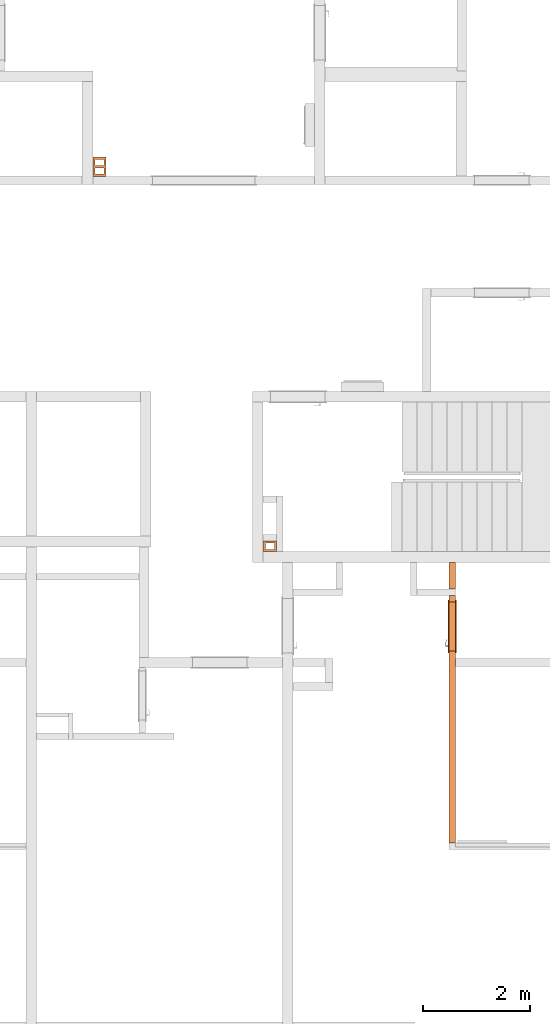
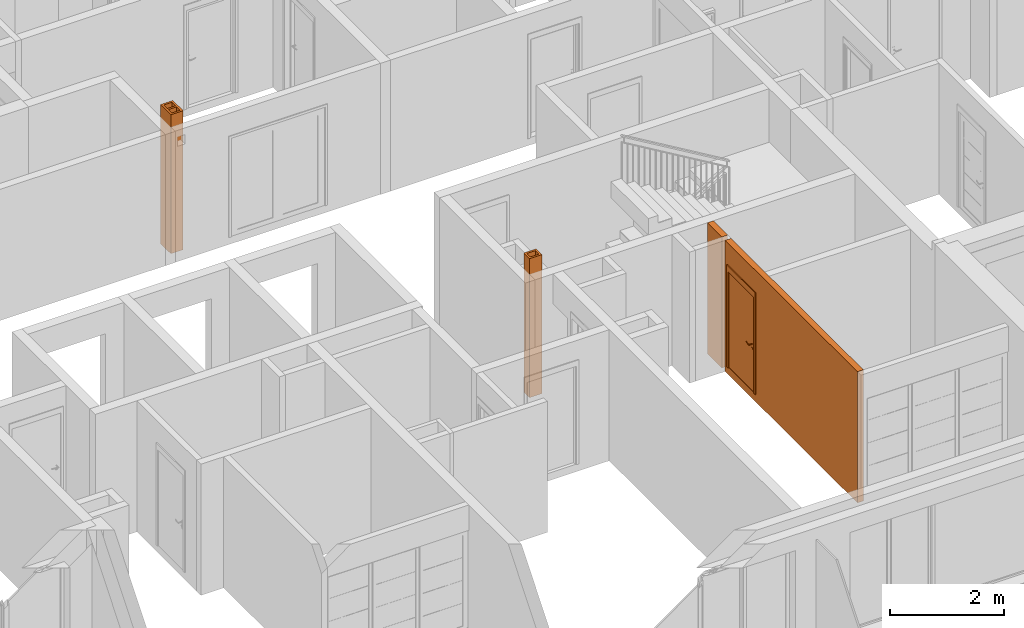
# One storey, part 19 of 64: 4 proxies, 1 opening.
"""IFC2X3 building model written with IfcOpenShell, lengths in millimetres."""

from ifc_helpers import new_model, entity, si_unit, converted_unit, derived_unit, money_unit, direction, frame, origin_with_axes, origin_2d_with_axis, place, context, subcontext, project, spatial, rectangle, extrude, open_shell, faceted_brep, surface_model, source, transform, mapped, material, type_object, element, fill, save


model = new_model("IFC2X3")

# Units and contexts
model_context = context("Model", 3, precision=0.01, world=origin_with_axes(), true_north=direction((0.34421633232, 0.938890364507)))
body_context = subcontext(model_context, "Body", "Model", "MODEL_VIEW")
ifc_project = project(units=[si_unit("LENGTHUNIT", "METRE", prefix="MILLI"), si_unit("AREAUNIT", "SQUARE_METRE"), si_unit("VOLUMEUNIT", "CUBIC_METRE"), converted_unit("PLANEANGLEUNIT", "DEGREE", entity("IfcPlaneAngleMeasure", 0.0174532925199), si_unit("PLANEANGLEUNIT", "RADIAN"), dimensions=[0, 0, 0, 0, 0, 0, 0]), si_unit("SOLIDANGLEUNIT", "STERADIAN"), money_unit("USD"), converted_unit("TIMEUNIT", "Year", entity("IfcTimeMeasure", 31556926.0), si_unit("TIMEUNIT", "SECOND"), dimensions=[0, 0, 1, 0, 0, 0, 0]), si_unit("MASSUNIT", "GRAM", prefix="KILO"), si_unit("THERMODYNAMICTEMPERATUREUNIT", "DEGREE_CELSIUS"), si_unit("LUMINOUSINTENSITYUNIT", "LUMEN"), si_unit("ENERGYUNIT", "JOULE", prefix="MEGA"), derived_unit("THERMALCONDUCTANCEUNIT", [(si_unit("POWERUNIT", "WATT"), 1), (si_unit("LENGTHUNIT", "METRE"), -1), (si_unit("THERMODYNAMICTEMPERATUREUNIT", "KELVIN"), -1)]), derived_unit("SPECIFICHEATCAPACITYUNIT", [(si_unit("ENERGYUNIT", "JOULE"), 1), (si_unit("MASSUNIT", "GRAM", prefix="KILO"), -1), (si_unit("THERMODYNAMICTEMPERATUREUNIT", "KELVIN"), -1)]), derived_unit("MASSDENSITYUNIT", [(si_unit("MASSUNIT", "GRAM", prefix="KILO"), 1), (si_unit("VOLUMEUNIT", "CUBIC_METRE"), -1)])], contexts=[model_context])

# Site, building, storey
site_placement = place(None, origin_with_axes())
site = spatial("IfcSite", under=ifc_project, at=site_placement, Name="USTRONIE MORSKIE", CompositionType="ELEMENT")
building_placement = place(site_placement, origin_with_axes())
building = spatial("IfcBuilding", under=site, at=building_placement, Name="Budynek", CompositionType="ELEMENT")
storey_placement = place(building_placement, frame((0.0, 0.0, 7000.0), z_axis=(0.0, 0.0, 1.0), x_axis=(1.0, 0.0, 0.0)))
storey = spatial("IfcBuildingStorey", under=building, at=storey_placement, Name="PIĘTRO 2", CompositionType="ELEMENT", Elevation=7000.0)

# Proxies, opening
ifc_material = material(Name="Bloczki silikatowe")
building_element_proxy_type_1 = type_object("IfcBuildingElementProxyType", Name="Bloczki silikatowe 120", PredefinedType="NOTDEFINED")
proxy_1_placement = place(storey_placement, frame((393297.920919, 724391.199036, -160.0), z_axis=(0.0, 0.0, 1.0), x_axis=(0.0, 1.0, 0.0)))
proxy_1 = element("IfcBuildingElementProxy", 1, at=proxy_1_placement, inside=storey, type_object=building_element_proxy_type_1, material=ifc_material, Name="SW-04", context=body_context, shape_type="Brep", body=[
    faceted_brep([(5310.0, 60.0, 0.0), (5310.0, -60.0, 0.0), (4810.0, -60.0, 0.0), (4810.0, 60.0, 0.0), (5310.0, 60.0, 2800.0), (5310.0, -60.0, 2800.0), (4810.0, -60.0, 2800.0), (4810.0, 60.0, 2800.0)], [[[0, 1, 2, 3]], [[1, 0, 4, 5]], [[1, 5, 6, 2]], [[7, 3, 2, 6]], [[4, 0, 3, 7]], [[5, 4, 7, 6]]]),
    faceted_brep([(4690.0, 60.0, 0.0), (4690.0, -60.0, 0.0), (59.9999999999, -60.0, 0.0), (59.9999999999, 60.0, 0.0), (4690.0, 60.0, 2800.0), (4690.0, -60.0, 2800.0), (59.9999999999, -60.0, 2800.0), (59.9999999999, 60.0, 2800.0)], [[[0, 1, 2, 3]], [[1, 0, 4, 5]], [[1, 5, 6, 2]], [[7, 3, 2, 6]], [[4, 0, 3, 7]], [[5, 4, 7, 6]]]),
])
opening_placement = place(proxy_1_placement, frame((4110.0, 0.0, 160.0), z_axis=(0.0, 0.0, 1.0), x_axis=(1.0, 0.0, 0.0)))
opening = element("IfcOpeningElement", 2, at=opening_placement, cuts=proxy_1, Name="Dw.4", context=body_context, shape_type="SweptSolid", body=[
    extrude(rectangle(XDim=920.0, YDim=2070.0, at=origin_2d_with_axis()), frame((0.0, 120.0, 1035.0), z_axis=(0.0, -1.0, 0.0), x_axis=(1.0, 0.0, 0.0)), (0.0, 0.0, 1.0), 360.0),
    extrude(rectangle(XDim=994.0, YDim=2177.0, at=origin_2d_with_axis()), frame((0.0, 60.0, 1088.5), z_axis=(0.0, -1.0, 0.0), x_axis=(1.0, 0.0, 0.0)), (0.0, 0.0, -1.0), 120.0),
    extrude(rectangle(XDim=994.0, YDim=2177.0, at=origin_2d_with_axis()), frame((0.0, -60.0, 1088.5), z_axis=(0.0, 1.0, 0.0), x_axis=(1.0, 0.0, 0.0)), (0.0, 0.0, -1.0), 120.0),
])
building_element_proxy_type_2 = type_object("IfcBuildingElementProxyType", Name="Drzwi 23", PredefinedType="NOTDEFINED")
shared_shape_1 = source(origin_with_axes(), body_context, "Body", "SurfaceModel", [
    faceted_brep([(-460.0, 0.0, 0.0), (-460.0, 5.0, 0.0), (-435.0, 5.0, 0.0), (-435.0, 0.0, 0.0), (-460.0, 0.0, 2070.0), (-460.0, 5.0, 2070.0), (-435.0, 5.0, 2045.0), (-435.0, 0.0, 2045.0)], [[[0, 1, 2, 3]], [[4, 5, 1, 0]], [[1, 5, 6, 2]], [[3, 2, 6, 7]], [[0, 3, 7, 4]], [[7, 6, 5, 4]]]),
    faceted_brep([(460.0, 0.0, 2070.0), (460.0, 5.0, 2070.0), (435.0, 5.0, 2045.0), (435.0, 0.0, 2045.0), (460.0, 0.0, 0.0), (460.0, 5.0, 0.0), (435.0, 5.0, 0.0), (435.0, 0.0, 0.0)], [[[0, 1, 2, 3]], [[4, 5, 1, 0]], [[1, 5, 6, 2]], [[3, 2, 6, 7]], [[0, 3, 7, 4]], [[7, 6, 5, 4]]]),
    faceted_brep([(-435.0, 0.0, 2045.0), (-435.0, 5.0, 2045.0), (435.0, 5.0, 2045.0), (435.0, 0.0, 2045.0), (-460.0, 0.0, 2070.0), (-460.0, 5.0, 2070.0), (460.0, 5.0, 2070.0), (460.0, 0.0, 2070.0)], [[[0, 1, 2, 3]], [[4, 5, 1, 0]], [[1, 5, 6, 2]], [[3, 2, 6, 7]], [[0, 3, 7, 4]], [[7, 6, 5, 4]]]),
    faceted_brep([(-497.0, 24.0, 0.0), (-447.0, 24.0, 0.0), (-447.0, 5.0, 0.0), (-497.0, 5.0, 0.0), (-497.0, 24.0, 2177.0), (-447.0, 24.0, 2057.0), (-447.0, 5.0, 2057.0), (-497.0, 5.0, 2177.0)], [[[0, 1, 2, 3]], [[0, 4, 5, 1]], [[1, 5, 6, 2]], [[3, 2, 6, 7]], [[4, 0, 3, 7]], [[5, 4, 7, 6]]]),
    faceted_brep([(497.0, 24.0, 2177.0), (447.0, 24.0, 2057.0), (447.0, 5.0, 2057.0), (497.0, 5.0, 2177.0), (497.0, 24.0, 0.0), (447.0, 24.0, 0.0), (447.0, 5.0, 0.0), (497.0, 5.0, 0.0)], [[[0, 1, 2, 3]], [[0, 4, 5, 1]], [[1, 5, 6, 2]], [[3, 2, 6, 7]], [[4, 0, 3, 7]], [[5, 4, 7, 6]]]),
    faceted_brep([(-497.0, 24.0, 2177.0), (-447.0, 24.0, 2057.0), (-447.0, 5.0, 2057.0), (-497.0, 5.0, 2177.0), (497.0, 24.0, 2177.0), (447.0, 24.0, 2057.0), (447.0, 5.0, 2057.0), (497.0, 5.0, 2177.0)], [[[0, 1, 2, 3]], [[0, 4, 5, 1]], [[1, 5, 6, 2]], [[3, 2, 6, 7]], [[4, 0, 3, 7]], [[5, 4, 7, 6]]]),
    faceted_brep([(-497.0, -134.0, 0.0), (-497.0, -115.0, 0.0), (-447.0, -115.0, 0.0), (-447.0, -134.0, 0.0), (-497.0, -134.0, 2177.0), (-497.0, -115.0, 2177.0), (-447.0, -115.0, 2057.0), (-447.0, -134.0, 2057.0)], [[[0, 1, 2, 3]], [[4, 5, 1, 0]], [[1, 5, 6, 2]], [[3, 2, 6, 7]], [[0, 3, 7, 4]], [[7, 6, 5, 4]]]),
    faceted_brep([(497.0, -134.0, 2177.0), (497.0, -115.0, 2177.0), (447.0, -115.0, 2057.0), (447.0, -134.0, 2057.0), (497.0, -134.0, 0.0), (497.0, -115.0, 0.0), (447.0, -115.0, 0.0), (447.0, -134.0, 0.0)], [[[0, 1, 2, 3]], [[4, 5, 1, 0]], [[1, 5, 6, 2]], [[3, 2, 6, 7]], [[0, 3, 7, 4]], [[7, 6, 5, 4]]]),
    faceted_brep([(-497.0, -134.0, 2177.0), (-497.0, -115.0, 2177.0), (-447.0, -115.0, 2057.0), (-447.0, -134.0, 2057.0), (497.0, -134.0, 2177.0), (497.0, -115.0, 2177.0), (447.0, -115.0, 2057.0), (447.0, -134.0, 2057.0)], [[[0, 1, 2, 3]], [[4, 5, 1, 0]], [[1, 5, 6, 2]], [[3, 2, 6, 7]], [[0, 3, 7, 4]], [[7, 6, 5, 4]]]),
    faceted_brep([(-400.0, -40.0, 0.0), (-400.0, -40.0, 2000.0), (-400.0, -115.0, 2000.0), (-400.0, -115.0, 0.0), (-412.0, -40.0, 2000.0), (-412.0, -40.0, 0.0), (-412.0, 0.0, 2000.0), (-460.0, 0.0, 2000.0), (-460.0, -115.0, 2000.0), (-460.0, -115.0, 0.0), (-460.0, 0.0, 0.0), (-412.0, 0.0, 0.0)], [[[0, 1, 2, 3]], [[4, 1, 0, 5]], [[4, 6, 7, 8, 2, 1]], [[3, 2, 8, 9]], [[5, 0, 3, 9, 10, 11]], [[6, 4, 5, 11]], [[6, 11, 10, 7]], [[10, 9, 8, 7]]]),
    faceted_brep([(412.0, -40.0, 2000.0), (400.0, -40.0, 2000.0), (400.0, -115.0, 2000.0), (460.0, -115.0, 2000.0), (460.0, 0.0, 2000.0), (412.0, 0.0, 2000.0), (412.0, -40.0, 0.0), (400.0, -40.0, 0.0), (400.0, -115.0, 0.0), (460.0, -115.0, 0.0), (460.0, 0.0, 0.0), (412.0, 0.0, 0.0)], [[[0, 1, 2, 3, 4, 5]], [[1, 0, 6, 7]], [[1, 7, 8, 2]], [[3, 2, 8, 9]], [[4, 3, 9, 10]], [[11, 5, 4, 10]], [[0, 5, 11, 6]], [[6, 11, 10, 9, 8, 7]]]),
    faceted_brep([(-412.0, 0.0, 2012.0), (-412.0, 0.0, 2000.0), (-460.0, 0.0, 2000.0), (-460.0, 0.0, 2070.0), (460.0, 0.0, 2070.0), (460.0, 0.0, 2000.0), (412.0, 0.0, 2000.0), (412.0, 0.0, 2012.0), (-412.0, -40.0, 2012.0), (-412.0, -40.0, 2000.0), (-400.0, -40.0, 2000.0), (-400.0, -115.0, 2000.0), (-460.0, -115.0, 2000.0), (-460.0, -115.0, 2070.0), (460.0, -115.0, 2070.0), (460.0, -115.0, 2000.0), (412.0, -40.0, 2000.0), (400.0, -115.0, 2000.0), (400.0, -40.0, 2000.0), (412.0, -40.0, 2012.0)], [[[0, 1, 2, 3, 4, 5, 6, 7]], [[1, 0, 8, 9]], [[9, 10, 11, 12, 2, 1]], [[2, 12, 13, 3]], [[3, 13, 14, 4]], [[4, 14, 15, 5]], [[16, 6, 5, 15, 17, 18]], [[7, 6, 16, 19]], [[0, 7, 19, 8]], [[16, 18, 10, 9, 8, 19]], [[10, 18, 17, 11]], [[17, 15, 14, 13, 12, 11]]]),
    faceted_brep([(-390.5, -40.0, 1060.0), (-390.5, -43.0, 1060.0), (-333.5, -43.0, 1060.0), (-333.5, -40.0, 1060.0), (-390.5, -40.0, 870.0), (-390.5, -43.0, 870.0), (-333.5, -43.0, 870.0), (-333.5, -40.0, 870.0)], [[[0, 1, 2, 3]], [[4, 5, 1, 0]], [[1, 5, 6, 2]], [[3, 2, 6, 7]], [[0, 3, 7, 4]], [[7, 6, 5, 4]]]),
    faceted_brep([(-362.0, -104.0, 990.0), (-362.0, -111.0, 990.0), (-367.0, -111.0, 991.339745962), (-367.0, -104.0, 991.339745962), (-337.0, -104.0, 990.0), (-337.0, -111.0, 990.0), (-337.0, -111.0, 1010.0), (-362.0, -111.0, 1010.0), (-367.0, -111.0, 1008.66025404), (-370.660254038, -111.0, 1005.0), (-372.0, -111.0, 1000.0), (-370.660254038, -111.0, 995.0), (-370.660254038, -104.0, 995.0), (-372.0, -104.0, 1000.0), (-370.660254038, -104.0, 1005.0), (-367.0, -104.0, 1008.66025404), (-362.0, -104.0, 1010.0), (-337.0, -104.0, 1010.0)], [[[0, 1, 2, 3]], [[4, 5, 1, 0]], [[1, 5, 6, 7, 8, 9, 10, 11, 2]], [[3, 2, 11, 12]], [[0, 3, 12, 13, 14, 15, 16, 17, 4]], [[17, 6, 5, 4]], [[16, 7, 6, 17]], [[15, 8, 7, 16]], [[14, 9, 8, 15]], [[13, 10, 9, 14]], [[12, 11, 10, 13]]]),
    surface_model("IfcShellBasedSurfaceModel", [(-337.0, -104.0, 1010.0), (-323.596090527, -111.0, 1009.60730092), (-323.901717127, -104.0, 1009.60730092), (-337.0, -111.0, 1010.0), (-296.890283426, -108.663544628, 1008.82190275), (-323.901717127, -104.0, 990.392699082), (-337.0, -104.0, 990.0), (-337.0, -111.0, 990.0), (-323.596090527, -111.0, 990.392699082), (-296.890283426, -108.663544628, 991.178097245), (-297.804837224, -101.716818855, 1008.82190275), (-297.804837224, -101.716818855, 991.178097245), (-270.489735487, -104.008415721, 991.963495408), (-270.489735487, -104.008415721, 1008.03650459), (-272.006256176, -97.1678329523, 1008.03650459), (-272.006256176, -97.1678329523, 991.963495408), (-244.59537082, -97.0700416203, 992.748893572), (-244.59537082, -97.0700416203, 1007.25110643), (-246.702316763, -90.3876628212, 1007.25110643), (-246.702316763, -90.3876628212, 992.748893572), (-236.538795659, -94.1376880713, 993.0), (-236.538795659, -94.1376880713, 1007.0), (-238.829442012, -87.5221707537, 1007.0), (-238.829442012, -87.5221707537, 993.0)], [open_shell([[[0, 1, 2]], [[0, 3, 1]], [[2, 1, 4]], [[0, 2, 5, 6]], [[3, 7, 8, 1]], [[1, 8, 9, 4]], [[2, 4, 10]], [[2, 10, 11, 5]], [[5, 7, 6]], [[5, 8, 7]], [[11, 9, 8]], [[4, 9, 12, 13]], [[10, 4, 13]], [[10, 14, 15, 11]], [[11, 8, 5]], [[15, 9, 11]], [[15, 12, 9]], [[13, 12, 16, 17]], [[10, 13, 14]], [[14, 18, 19, 15]], [[19, 12, 15]], [[19, 16, 12]], [[17, 16, 20, 21]], [[14, 13, 17]], [[14, 17, 18]], [[18, 22, 23, 19]], [[23, 16, 19]], [[23, 20, 16]], [[22, 21, 20, 23]], [[18, 17, 21]], [[18, 21, 22]]])]),
    faceted_brep([(-351.607695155, -53.0, 994.0), (-350.741669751, -43.0, 993.5), (-349.0, -43.0, 1000.0), (-350.0, -53.0, 1000.0), (-356.0, -53.0, 989.607695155), (-355.5, -43.0, 988.741669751), (-362.0, -43.0, 987.0), (-368.5, -43.0, 988.741669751), (-373.258330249, -43.0, 993.5), (-375.0, -43.0, 1000.0), (-373.258330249, -43.0, 1006.5), (-368.5, -43.0, 1011.25833025), (-362.0, -43.0, 1013.0), (-355.5, -43.0, 1011.25833025), (-350.741669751, -43.0, 1006.5), (-351.607695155, -53.0, 1006.0), (-356.0, -53.0, 1010.39230485), (-362.0, -53.0, 1012.0), (-368.0, -53.0, 1010.39230485), (-372.392304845, -53.0, 1006.0), (-374.0, -53.0, 1000.0), (-372.392304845, -53.0, 994.0), (-368.0, -53.0, 989.607695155), (-362.0, -53.0, 988.0)], [[[0, 1, 2, 3]], [[4, 5, 1, 0]], [[2, 1, 5, 6, 7, 8, 9, 10, 11, 12, 13, 14]], [[3, 2, 14, 15]], [[3, 15, 16, 17, 18, 19, 20, 21, 22, 23, 4, 0]], [[23, 6, 5, 4]], [[22, 7, 6, 23]], [[21, 8, 7, 22]], [[20, 9, 8, 21]], [[19, 10, 9, 20]], [[18, 11, 10, 19]], [[17, 12, 11, 18]], [[16, 13, 12, 17]], [[15, 14, 13, 16]]]),
    faceted_brep([(-344.679491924, -47.0, 895.0), (-342.947441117, -43.0, 894.0), (-340.0, -43.0, 905.0), (-342.0, -47.0, 905.0), (-352.0, -47.0, 887.679491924), (-351.0, -43.0, 885.947441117), (-362.0, -43.0, 883.0), (-373.0, -43.0, 885.947441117), (-381.052558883, -43.0, 894.0), (-384.0, -43.0, 905.0), (-381.052558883, -43.0, 916.0), (-373.0, -43.0, 924.052558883), (-362.0, -43.0, 927.0), (-351.0, -43.0, 924.052558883), (-342.947441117, -43.0, 916.0), (-344.679491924, -47.0, 915.0), (-352.0, -47.0, 922.320508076), (-362.0, -47.0, 925.0), (-372.0, -47.0, 922.320508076), (-379.320508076, -47.0, 915.0), (-382.0, -47.0, 905.0), (-379.320508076, -47.0, 895.0), (-372.0, -47.0, 887.679491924), (-362.0, -47.0, 885.0)], [[[0, 1, 2, 3]], [[4, 5, 1, 0]], [[2, 1, 5, 6, 7, 8, 9, 10, 11, 12, 13, 14]], [[3, 2, 14, 15]], [[3, 15, 16, 17, 18, 19, 20, 21, 22, 23, 4, 0]], [[23, 6, 5, 4]], [[22, 7, 6, 23]], [[21, 8, 7, 22]], [[20, 9, 8, 21]], [[19, 10, 9, 20]], [[18, 11, 10, 19]], [[17, 12, 11, 18]], [[16, 13, 12, 17]], [[15, 14, 13, 16]]]),
    faceted_brep([(-357.050252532, -49.0, 909.050252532), (-356.343145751, -47.0, 908.343145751), (-354.0, -47.0, 914.0), (-355.0, -49.0, 914.0), (-362.0, -49.0, 907.0), (-362.0, -47.0, 906.0), (-367.656854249, -47.0, 908.343145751), (-370.0, -47.0, 914.0), (-367.656854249, -47.0, 919.656854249), (-362.0, -47.0, 922.0), (-356.343145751, -47.0, 919.656854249), (-357.050252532, -49.0, 918.949747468), (-362.0, -49.0, 921.0), (-366.949747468, -49.0, 918.949747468), (-369.0, -49.0, 914.0), (-366.949747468, -49.0, 909.050252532)], [[[0, 1, 2, 3]], [[4, 5, 1, 0]], [[2, 1, 5, 6, 7, 8, 9, 10]], [[3, 2, 10, 11]], [[3, 11, 12, 13, 14, 15, 4, 0]], [[15, 6, 5, 4]], [[14, 7, 6, 15]], [[13, 8, 7, 14]], [[12, 9, 8, 13]], [[11, 10, 9, 12]]]),
    faceted_brep([(-362.0, -53.0, 1010.0), (-362.0, -104.0, 1010.0), (-357.0, -104.0, 1008.66025404), (-357.0, -53.0, 1008.66025404), (-367.0, -53.0, 1008.66025404), (-367.0, -104.0, 1008.66025404), (-370.660254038, -104.0, 1005.0), (-372.0, -104.0, 1000.0), (-370.660254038, -104.0, 995.0), (-367.0, -104.0, 991.339745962), (-362.0, -104.0, 990.0), (-357.0, -104.0, 991.339745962), (-353.339745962, -104.0, 995.0), (-352.0, -104.0, 1000.0), (-353.339745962, -104.0, 1005.0), (-353.339745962, -53.0, 1005.0), (-352.0, -53.0, 1000.0), (-353.339745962, -53.0, 995.0), (-357.0, -53.0, 991.339745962), (-362.0, -53.0, 990.0), (-367.0, -53.0, 991.339745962), (-370.660254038, -53.0, 995.0), (-372.0, -53.0, 1000.0), (-370.660254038, -53.0, 1005.0)], [[[0, 1, 2, 3]], [[4, 5, 1, 0]], [[1, 5, 6, 7, 8, 9, 10, 11, 12, 13, 14, 2]], [[3, 2, 14, 15]], [[0, 3, 15, 16, 17, 18, 19, 20, 21, 22, 23, 4]], [[23, 6, 5, 4]], [[22, 7, 6, 23]], [[21, 8, 7, 22]], [[20, 9, 8, 21]], [[19, 10, 9, 20]], [[18, 11, 10, 19]], [[17, 12, 11, 18]], [[16, 13, 12, 17]], [[15, 14, 13, 16]]]),
    faceted_brep([(-390.5, 0.0, 1060.0), (-333.5, 0.0, 1060.0), (-333.5, 3.0, 1060.0), (-390.5, 3.0, 1060.0), (-390.5, 0.0, 870.0), (-333.5, 0.0, 870.0), (-333.5, 3.0, 870.0), (-390.5, 3.0, 870.0)], [[[0, 1, 2, 3]], [[0, 4, 5, 1]], [[1, 5, 6, 2]], [[3, 2, 6, 7]], [[4, 0, 3, 7]], [[5, 4, 7, 6]]]),
    faceted_brep([(-362.0, 64.0, 990.0), (-367.0, 64.0, 991.339745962), (-367.0, 71.0, 991.339745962), (-362.0, 71.0, 990.0), (-337.0, 64.0, 990.0), (-337.0, 64.0, 1010.0), (-362.0, 64.0, 1010.0), (-367.0, 64.0, 1008.66025404), (-370.660254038, 64.0, 1005.0), (-372.0, 64.0, 1000.0), (-370.660254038, 64.0, 995.0), (-370.660254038, 71.0, 995.0), (-372.0, 71.0, 1000.0), (-370.660254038, 71.0, 1005.0), (-367.0, 71.0, 1008.66025404), (-362.0, 71.0, 1010.0), (-337.0, 71.0, 1010.0), (-337.0, 71.0, 990.0)], [[[0, 1, 2, 3]], [[0, 4, 5, 6, 7, 8, 9, 10, 1]], [[1, 10, 11, 2]], [[3, 2, 11, 12, 13, 14, 15, 16, 17]], [[4, 0, 3, 17]], [[5, 4, 17, 16]], [[6, 5, 16, 15]], [[7, 6, 15, 14]], [[8, 7, 14, 13]], [[9, 8, 13, 12]], [[10, 9, 12, 11]]]),
    surface_model("IfcShellBasedSurfaceModel", [(-337.0, 64.0, 1010.0), (-323.901717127, 64.0, 1009.60730092), (-323.596090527, 71.0, 1009.60730092), (-337.0, 64.0, 990.0), (-323.901717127, 64.0, 990.392699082), (-296.890283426, 68.6635446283, 1008.82190275), (-337.0, 71.0, 1010.0), (-337.0, 71.0, 990.0), (-297.804837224, 61.716818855, 991.178097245), (-297.804837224, 61.716818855, 1008.82190275), (-296.890283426, 68.6635446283, 991.178097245), (-323.596090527, 71.0, 990.392699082), (-272.006256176, 57.1678329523, 991.963495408), (-272.006256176, 57.1678329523, 1008.03650459), (-270.489735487, 64.0084157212, 1008.03650459), (-270.489735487, 64.0084157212, 991.963495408), (-246.702316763, 50.3876628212, 992.748893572), (-246.702316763, 50.3876628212, 1007.25110643), (-244.59537082, 57.0700416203, 1007.25110643), (-244.59537082, 57.0700416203, 992.748893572), (-238.829442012, 47.5221707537, 993.0), (-238.829442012, 47.5221707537, 1007.0), (-236.538795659, 54.1376880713, 1007.0), (-236.538795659, 54.1376880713, 993.0)], [open_shell([[[0, 1, 2]], [[0, 3, 4, 1]], [[1, 5, 2]], [[0, 2, 6]], [[4, 3, 7]], [[1, 4, 8, 9]], [[1, 9, 5]], [[2, 5, 10, 11]], [[6, 2, 11, 7]], [[4, 7, 11]], [[8, 4, 11]], [[9, 8, 12, 13]], [[9, 14, 5]], [[5, 14, 15, 10]], [[8, 11, 10]], [[12, 8, 10]], [[13, 12, 16, 17]], [[9, 13, 14]], [[14, 18, 19, 15]], [[12, 10, 15]], [[16, 12, 15]], [[17, 16, 20, 21]], [[13, 17, 18]], [[13, 18, 14]], [[18, 22, 23, 19]], [[16, 15, 19]], [[20, 16, 19]], [[21, 20, 23, 22]], [[17, 21, 22]], [[17, 22, 18]], [[20, 19, 23]]])]),
    faceted_brep([(-351.607695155, 13.0, 994.0), (-350.0, 13.0, 1000.0), (-349.0, 3.0, 1000.0), (-350.741669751, 3.0, 993.5), (-356.0, 13.0, 989.607695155), (-362.0, 13.0, 988.0), (-368.0, 13.0, 989.607695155), (-372.392304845, 13.0, 994.0), (-374.0, 13.0, 1000.0), (-372.392304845, 13.0, 1006.0), (-368.0, 13.0, 1010.39230485), (-362.0, 13.0, 1012.0), (-356.0, 13.0, 1010.39230485), (-351.607695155, 13.0, 1006.0), (-350.741669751, 3.0, 1006.5), (-355.5, 3.0, 1011.25833025), (-362.0, 3.0, 1013.0), (-368.5, 3.0, 1011.25833025), (-373.258330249, 3.0, 1006.5), (-375.0, 3.0, 1000.0), (-373.258330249, 3.0, 993.5), (-368.5, 3.0, 988.741669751), (-362.0, 3.0, 987.0), (-355.5, 3.0, 988.741669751)], [[[0, 1, 2, 3]], [[1, 0, 4, 5, 6, 7, 8, 9, 10, 11, 12, 13]], [[1, 13, 14, 2]], [[2, 14, 15, 16, 17, 18, 19, 20, 21, 22, 23, 3]], [[4, 0, 3, 23]], [[5, 4, 23, 22]], [[6, 5, 22, 21]], [[7, 6, 21, 20]], [[8, 7, 20, 19]], [[9, 8, 19, 18]], [[10, 9, 18, 17]], [[11, 10, 17, 16]], [[12, 11, 16, 15]], [[13, 12, 15, 14]]]),
    faceted_brep([(-344.679491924, 7.0, 895.0), (-342.0, 7.0, 905.0), (-340.0, 3.0, 905.0), (-342.947441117, 3.0, 894.0), (-352.0, 7.0, 887.679491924), (-362.0, 7.0, 885.0), (-372.0, 7.0, 887.679491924), (-379.320508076, 7.0, 895.0), (-382.0, 7.0, 905.0), (-379.320508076, 7.0, 915.0), (-372.0, 7.0, 922.320508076), (-362.0, 7.0, 925.0), (-352.0, 7.0, 922.320508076), (-344.679491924, 7.0, 915.0), (-342.947441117, 3.0, 916.0), (-351.0, 3.0, 924.052558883), (-362.0, 3.0, 927.0), (-373.0, 3.0, 924.052558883), (-381.052558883, 3.0, 916.0), (-384.0, 3.0, 905.0), (-381.052558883, 3.0, 894.0), (-373.0, 3.0, 885.947441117), (-362.0, 3.0, 883.0), (-351.0, 3.0, 885.947441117)], [[[0, 1, 2, 3]], [[1, 0, 4, 5, 6, 7, 8, 9, 10, 11, 12, 13]], [[1, 13, 14, 2]], [[2, 14, 15, 16, 17, 18, 19, 20, 21, 22, 23, 3]], [[4, 0, 3, 23]], [[5, 4, 23, 22]], [[6, 5, 22, 21]], [[7, 6, 21, 20]], [[8, 7, 20, 19]], [[9, 8, 19, 18]], [[10, 9, 18, 17]], [[11, 10, 17, 16]], [[12, 11, 16, 15]], [[13, 12, 15, 14]]]),
    faceted_brep([(-357.050252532, 9.0, 909.050252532), (-355.0, 9.0, 914.0), (-354.0, 7.0, 914.0), (-356.343145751, 7.0, 908.343145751), (-362.0, 9.0, 907.0), (-366.949747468, 9.0, 909.050252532), (-369.0, 9.0, 914.0), (-366.949747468, 9.0, 918.949747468), (-362.0, 9.0, 921.0), (-357.050252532, 9.0, 918.949747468), (-356.343145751, 7.0, 919.656854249), (-362.0, 7.0, 922.0), (-367.656854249, 7.0, 919.656854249), (-370.0, 7.0, 914.0), (-367.656854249, 7.0, 908.343145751), (-362.0, 7.0, 906.0)], [[[0, 1, 2, 3]], [[1, 0, 4, 5, 6, 7, 8, 9]], [[1, 9, 10, 2]], [[2, 10, 11, 12, 13, 14, 15, 3]], [[4, 0, 3, 15]], [[5, 4, 15, 14]], [[6, 5, 14, 13]], [[7, 6, 13, 12]], [[8, 7, 12, 11]], [[9, 8, 11, 10]]]),
    faceted_brep([(-362.0, 13.0, 1010.0), (-357.0, 13.0, 1008.66025404), (-357.0, 64.0, 1008.66025404), (-362.0, 64.0, 1010.0), (-367.0, 13.0, 1008.66025404), (-370.660254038, 13.0, 1005.0), (-372.0, 13.0, 1000.0), (-370.660254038, 13.0, 995.0), (-367.0, 13.0, 991.339745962), (-362.0, 13.0, 990.0), (-357.0, 13.0, 991.339745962), (-353.339745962, 13.0, 995.0), (-352.0, 13.0, 1000.0), (-353.339745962, 13.0, 1005.0), (-353.339745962, 64.0, 1005.0), (-352.0, 64.0, 1000.0), (-353.339745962, 64.0, 995.0), (-357.0, 64.0, 991.339745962), (-362.0, 64.0, 990.0), (-367.0, 64.0, 991.339745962), (-370.660254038, 64.0, 995.0), (-372.0, 64.0, 1000.0), (-370.660254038, 64.0, 1005.0), (-367.0, 64.0, 1008.66025404)], [[[0, 1, 2, 3]], [[0, 4, 5, 6, 7, 8, 9, 10, 11, 12, 13, 1]], [[1, 13, 14, 2]], [[3, 2, 14, 15, 16, 17, 18, 19, 20, 21, 22, 23]], [[4, 0, 3, 23]], [[5, 4, 23, 22]], [[6, 5, 22, 21]], [[7, 6, 21, 20]], [[8, 7, 20, 19]], [[9, 8, 19, 18]], [[10, 9, 18, 17]], [[11, 10, 17, 16]], [[12, 11, 16, 15]], [[13, 12, 15, 14]]]),
    faceted_brep([(412.0, 0.0, 0.0), (412.0, -40.0, 0.0), (-412.0, -40.0, 0.0), (-412.0, 0.0, 0.0), (412.0, 0.0, 2012.0), (412.0, -40.0, 2012.0), (-412.0, -40.0, 2012.0), (-412.0, 0.0, 2012.0)], [[[0, 1, 2, 3]], [[4, 5, 1, 0]], [[1, 5, 6, 2]], [[3, 2, 6, 7]], [[0, 3, 7, 4]], [[7, 6, 5, 4]]]),
])
proxy_2_placement = place(opening_placement, frame((-400.0, 0.0, 0.0), z_axis=(0.0, 0.0, 1.0), x_axis=(1.0, 0.0, 0.0)))
proxy_2 = element("IfcBuildingElementProxy", 3, at=proxy_2_placement, inside=storey, type_object=building_element_proxy_type_2, Name="Dw.4", context=body_context, shape_type="MappedRepresentation", body=[
    mapped(shared_shape_1, transform((400.0, 55.0, 0.0))),
])
fill(opening, proxy_2)

# Proxies
building_element_proxy_type_3 = type_object("IfcBuildingElementProxyType", PredefinedType="NOTDEFINED")
shared_shape_2 = source(origin_with_axes(), body_context, "Body", "Brep", [
    faceted_brep([(0.0, 0.0, 0.0), (200.0, 0.0, 0.0), (200.0, 0.0, 2970.0), (0.0, 0.0, 2970.0), (0.0, 250.0, 0.0), (200.0, 250.0, 0.0), (40.0, 210.0, 0.0), (40.0, 40.0, 0.0), (160.0, 40.0, 0.0), (160.0, 210.0, 0.0), (200.0, 250.0, 2970.0), (0.0, 250.0, 2970.0), (40.0, 210.0, 2970.0), (160.0, 210.0, 2970.0), (160.0, 40.0, 2970.0), (40.0, 40.0, 2970.0)], [[[0, 1, 2, 3]], [[0, 4, 5, 1], [6, 7, 8, 9]], [[1, 5, 10, 2]], [[3, 2, 10, 11], [12, 13, 14, 15]], [[4, 0, 3, 11]], [[5, 4, 11, 10]], [[7, 6, 12, 15]], [[8, 7, 15, 14]], [[9, 8, 14, 13]], [[6, 9, 13, 12]]]),
])
proxy_3_placement = place(storey_placement, frame((389757.920919, 730101.199036, 0.0), z_axis=(0.0, 0.0, 1.0), x_axis=(0.0, -1.0, 0.0)))
element("IfcBuildingElementProxy", 4, at=proxy_3_placement, inside=storey, type_object=building_element_proxy_type_3, Name="Obiekt-007", context=body_context, shape_type="MappedRepresentation", body=[
    mapped(shared_shape_2, transform((0.0, 0.0, 0.0))),
])
shared_shape_3 = source(origin_with_axes(), body_context, "Body", "Brep", [
    faceted_brep([(0.0, 0.0, 0.0), (0.0, 0.0, 2970.0), (-360.0, 0.0, 2970.0), (-360.0, 0.0, 0.0), (0.0, 250.0, 0.0), (0.0, 250.0, 2970.0), (-360.0, 250.0, 2970.0), (-40.0, 210.0, 2970.0), (-40.0, 40.0, 2970.0), (-160.0, 40.0, 2970.0), (-160.0, 210.0, 2970.0), (-200.0, 210.0, 2970.0), (-200.0, 40.0, 2970.0), (-320.0, 40.0, 2970.0), (-320.0, 210.0, 2970.0), (-360.0, 250.0, 0.0), (-40.0, 210.0, 0.0), (-160.0, 210.0, 0.0), (-160.0, 40.0, 0.0), (-40.0, 40.0, 0.0), (-200.0, 210.0, 0.0), (-320.0, 210.0, 0.0), (-320.0, 40.0, 0.0), (-200.0, 40.0, 0.0)], [[[0, 1, 2, 3]], [[4, 5, 1, 0]], [[1, 5, 6, 2], [7, 8, 9, 10], [11, 12, 13, 14]], [[3, 2, 6, 15]], [[0, 3, 15, 4], [16, 17, 18, 19], [20, 21, 22, 23]], [[15, 6, 5, 4]], [[19, 8, 7, 16]], [[18, 9, 8, 19]], [[17, 10, 9, 18]], [[16, 7, 10, 17]], [[23, 12, 11, 20]], [[22, 13, 12, 23]], [[21, 14, 13, 22]], [[20, 11, 14, 21]]]),
])
proxy_4_placement = place(storey_placement, frame((386817.920919, 737286.199036, -70.0), z_axis=(0.0, 0.0, 1.0), x_axis=(0.0, 1.0, 0.0)))
element("IfcBuildingElementProxy", 5, at=proxy_4_placement, inside=storey, type_object=building_element_proxy_type_3, Name="Obiekt-007", context=body_context, shape_type="MappedRepresentation", body=[
    mapped(shared_shape_3, transform((0.0, 0.0, 0.0))),
])

save(model, "model.ifc")
